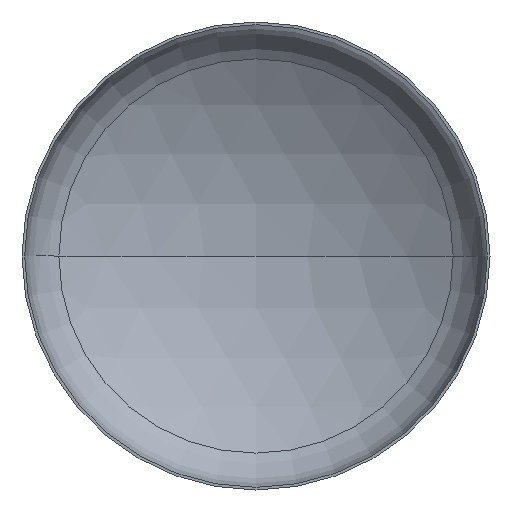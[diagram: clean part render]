
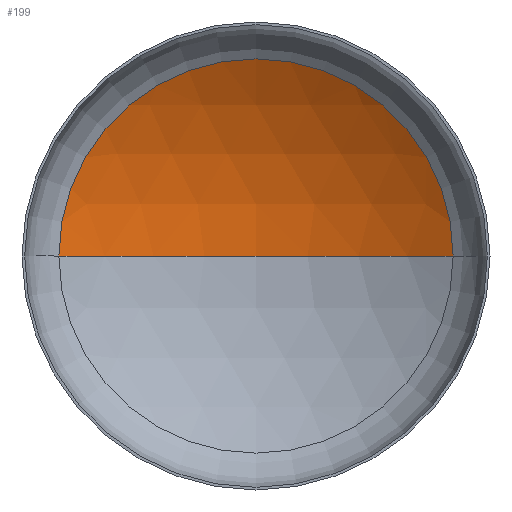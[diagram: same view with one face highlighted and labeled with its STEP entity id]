
A CAD part, front view. The second image highlights one B-rep face of the part: STEP entity #199.
In plain terms, the highlighted spherical face has radius 5600 mm.
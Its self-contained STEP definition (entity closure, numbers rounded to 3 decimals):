
#4 = ORIENTED_EDGE ( 'NONE', *, *, #219, .T. ) ;
#9 = DIRECTION ( 'NONE',  ( -1., 0., 0. ) ) ;
#14 = VERTEX_POINT ( 'NONE', #280 ) ;
#29 = VERTEX_POINT ( 'NONE', #356 ) ;
#37 = DIRECTION ( 'NONE',  ( 0., 0., -1. ) ) ;
#39 = ORIENTED_EDGE ( 'NONE', *, *, #226, .F. ) ;
#49 = VERTEX_POINT ( 'NONE', #247 ) ;
#79 = EDGE_LOOP ( 'NONE', ( #39, #4, #311 ) ) ;
#131 = CIRCLE ( 'NONE', #138, 5600. ) ;
#133 = AXIS2_PLACEMENT_3D ( 'NONE', #290, #240, #378 ) ;
#138 = AXIS2_PLACEMENT_3D ( 'NONE', #400, #37, #9 ) ;
#142 = AXIS2_PLACEMENT_3D ( 'NONE', #176, #149, #342 ) ;
#149 = DIRECTION ( 'NONE',  ( 0., -1., 0. ) ) ;
#162 = AXIS2_PLACEMENT_3D ( 'NONE', #315, #322, #288 ) ;
#176 = CARTESIAN_POINT ( 'NONE',  ( 0., 1038.157, 0. ) ) ;
#199 = ADVANCED_FACE ( 'NONE', ( #361 ), #225, .F. ) ;
#215 = CIRCLE ( 'NONE', #142, 2948.673 ) ;
#218 = EDGE_CURVE ( 'NONE', #29, #49, #215, .T. ) ;
#219 = EDGE_CURVE ( 'NONE', #14, #29, #131, .T. ) ;
#225 = SPHERICAL_SURFACE ( 'NONE', #162, 5600. ) ;
#226 = EDGE_CURVE ( 'NONE', #14, #49, #346, .T. ) ;
#240 = DIRECTION ( 'NONE',  ( 0., 0., 1. ) ) ;
#247 = CARTESIAN_POINT ( 'NONE',  ( -2948.673, 1038.157, 0. ) ) ;
#280 = CARTESIAN_POINT ( 'NONE',  ( 0., 1877.345, 0. ) ) ;
#288 = DIRECTION ( 'NONE',  ( -1., 0., 0. ) ) ;
#290 = CARTESIAN_POINT ( 'NONE',  ( 0., -3722.655, 0. ) ) ;
#311 = ORIENTED_EDGE ( 'NONE', *, *, #218, .T. ) ;
#315 = CARTESIAN_POINT ( 'NONE',  ( 0., -3722.655, 0. ) ) ;
#322 = DIRECTION ( 'NONE',  ( 0., 0., -1. ) ) ;
#342 = DIRECTION ( 'NONE',  ( 1., 0., 0. ) ) ;
#346 = CIRCLE ( 'NONE', #133, 5600. ) ;
#356 = CARTESIAN_POINT ( 'NONE',  ( 2948.673, 1038.157, 0. ) ) ;
#361 = FACE_OUTER_BOUND ( 'NONE', #79, .T. ) ;
#378 = DIRECTION ( 'NONE',  ( 1., 0., 0. ) ) ;
#400 = CARTESIAN_POINT ( 'NONE',  ( 0., -3722.655, 0. ) ) ;
